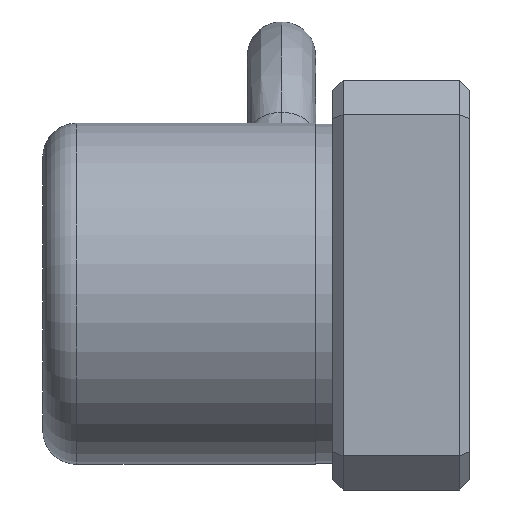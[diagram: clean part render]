
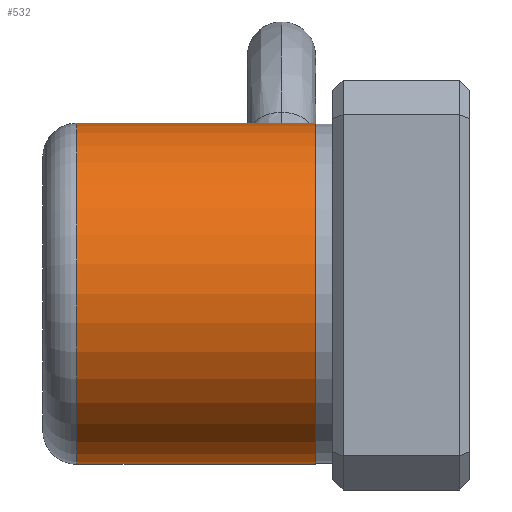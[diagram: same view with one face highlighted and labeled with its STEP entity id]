
A CAD part, left-side view. The second image highlights one B-rep face of the part: STEP entity #532.
In plain terms, the highlighted cylindrical face has radius 10 mm (diameter 20 mm), a partial arc.
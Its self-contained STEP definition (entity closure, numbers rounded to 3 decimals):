
#4 = VERTEX_POINT ( 'NONE', #2293 ) ;
#198 = LINE ( 'NONE', #1072, #1433 ) ;
#260 = EDGE_CURVE ( 'NONE', #4, #1923, #670, .T. ) ;
#433 = DIRECTION ( 'NONE',  ( 0., 0., -1. ) ) ;
#457 = FACE_OUTER_BOUND ( 'NONE', #1457, .T. ) ;
#532 = ADVANCED_FACE ( 'NONE', ( #457 ), #1761, .T. ) ;
#630 = AXIS2_PLACEMENT_3D ( 'NONE', #2421, #1519, #433 ) ;
#670 = CIRCLE ( 'NONE', #2294, 10. ) ;
#702 = CARTESIAN_POINT ( 'NONE',  ( 0., 9., 0. ) ) ;
#828 = CIRCLE ( 'NONE', #1806, 10. ) ;
#897 = VERTEX_POINT ( 'NONE', #2430 ) ;
#953 = ORIENTED_EDGE ( 'NONE', *, *, #1652, .T. ) ;
#961 = DIRECTION ( 'NONE',  ( 0., 1., 0. ) ) ;
#1072 = CARTESIAN_POINT ( 'NONE',  ( 0., 25., 10. ) ) ;
#1108 = CARTESIAN_POINT ( 'NONE',  ( 0., 23., 10. ) ) ;
#1290 = VERTEX_POINT ( 'NONE', #1108 ) ;
#1343 = EDGE_CURVE ( 'NONE', #1290, #1923, #198, .T. ) ;
#1433 = VECTOR ( 'NONE', #1961, 1000. ) ;
#1457 = EDGE_LOOP ( 'NONE', ( #1714, #953, #1911, #2492 ) ) ;
#1519 = DIRECTION ( 'NONE',  ( 0., -1., 0. ) ) ;
#1610 = CARTESIAN_POINT ( 'NONE',  ( 0., 23., 0. ) ) ;
#1624 = DIRECTION ( 'NONE',  ( 0., 0., 1. ) ) ;
#1652 = EDGE_CURVE ( 'NONE', #1290, #897, #828, .T. ) ;
#1714 = ORIENTED_EDGE ( 'NONE', *, *, #1343, .F. ) ;
#1761 = CYLINDRICAL_SURFACE ( 'NONE', #630, 10. ) ;
#1806 = AXIS2_PLACEMENT_3D ( 'NONE', #1610, #2296, #1624 ) ;
#1848 = DIRECTION ( 'NONE',  ( 0., 0., 1. ) ) ;
#1911 = ORIENTED_EDGE ( 'NONE', *, *, #2832, .T. ) ;
#1923 = VERTEX_POINT ( 'NONE', #1982 ) ;
#1961 = DIRECTION ( 'NONE',  ( 0., -1., 0. ) ) ;
#1982 = CARTESIAN_POINT ( 'NONE',  ( 0., 9., 10. ) ) ;
#2082 = CARTESIAN_POINT ( 'NONE',  ( 0., 25., -10. ) ) ;
#2243 = DIRECTION ( 'NONE',  ( 0., -1., 0. ) ) ;
#2293 = CARTESIAN_POINT ( 'NONE',  ( 0., 9., -10. ) ) ;
#2294 = AXIS2_PLACEMENT_3D ( 'NONE', #702, #961, #1848 ) ;
#2296 = DIRECTION ( 'NONE',  ( 0., -1., 0. ) ) ;
#2421 = CARTESIAN_POINT ( 'NONE',  ( 0., 25., 0. ) ) ;
#2430 = CARTESIAN_POINT ( 'NONE',  ( 0., 23., -10. ) ) ;
#2492 = ORIENTED_EDGE ( 'NONE', *, *, #260, .T. ) ;
#2500 = VECTOR ( 'NONE', #2243, 1000. ) ;
#2754 = LINE ( 'NONE', #2082, #2500 ) ;
#2832 = EDGE_CURVE ( 'NONE', #897, #4, #2754, .T. ) ;
